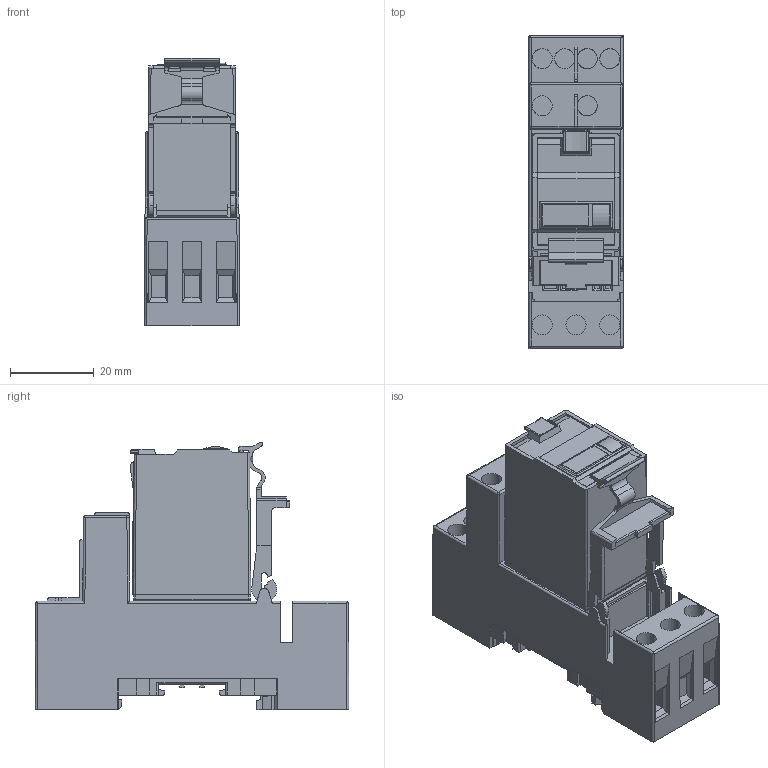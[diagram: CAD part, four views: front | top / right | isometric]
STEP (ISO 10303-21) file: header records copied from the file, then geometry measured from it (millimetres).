
FILE_DESCRIPTION (( 'STEP AP214' ), '1' );
FILE_NAME ('R7_plus_S7-GR.STEP', '2024-04-04T08:02:13', ( '' ), ( '' ), 'SwSTEP 2.0', 'SolidWorks 2022', '' );
FILE_SCHEMA (( 'AUTOMOTIVE_DESIGN' ));
Length unit declared in the file: millimetre
Products named in the file (1): R7_plus_S7-GR
Bounding box: 22.73 x 75.07 x 64.03 mm (x, y, z)
Volume: 61300.8 mm3; surface area: 20067.5 mm2
Topology: 1 solids, 18 shells, 1059 faces, 2944 edges, 1908 vertices
Faces by surface type: plane 901, cylinder 139, sphere 11, bspline 6, torus 2
Entity records: 45953 total; most frequent: CARTESIAN_POINT 7534, ORIENTED_EDGE 5860, DIRECTION 5004, EDGE_CURVE 2930, LINE 2558, VECTOR 2558, VERTEX_POINT 1904, AXIS2_PLACEMENT_3D 1223
